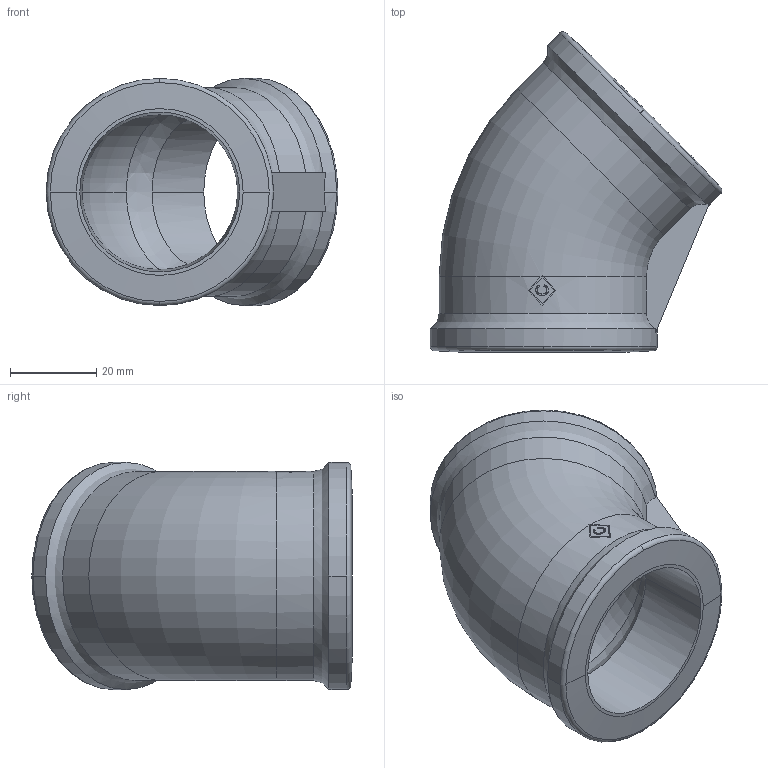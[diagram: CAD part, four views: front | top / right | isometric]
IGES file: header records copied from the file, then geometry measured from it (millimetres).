
Global section: file name: No Iges File Name specified; native system: AutoDesk Inventor R12.0; preprocessor: AutoDesk Inventor Iges Exporter R12.0; date: 20090916.105344; units: millimetre
Bounding box: 67.67 x 74.31 x 52.7 mm (x, y, z)
Volume: 49075.4 mm3; surface area: 20497.8 mm2
Topology: 1 solids, 1 shells, 52 faces, 160 edges, 112 vertices
Faces by surface type: plane 15, bspline 12, cylinder 9, revolution 6, torus 6, cone 4
